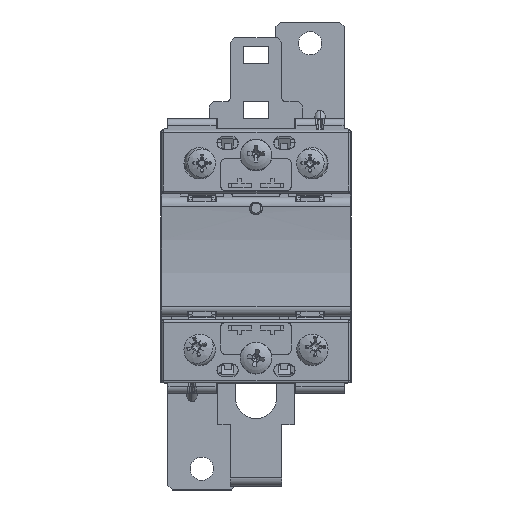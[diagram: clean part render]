
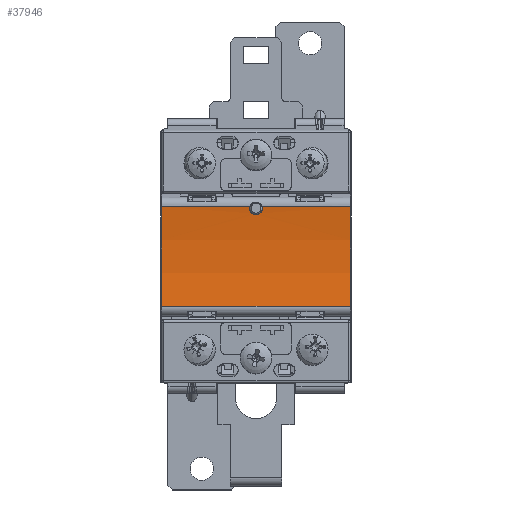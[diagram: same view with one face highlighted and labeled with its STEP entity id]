
A CAD part, top view. The second image highlights one B-rep face of the part: STEP entity #37946.
In plain terms, the highlighted cylindrical face has radius 80 mm (diameter 160 mm), a partial arc.
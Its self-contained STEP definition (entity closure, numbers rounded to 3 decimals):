
#1017=B_SPLINE_CURVE_WITH_KNOTS('',3,(#63859,#63860,#63861,#63862),
 .UNSPECIFIED.,.F.,.F.,(4,4),(-0.265,-0.227),
 .UNSPECIFIED.);
#1019=B_SPLINE_CURVE_WITH_KNOTS('',3,(#63882,#63883,#63884,#63885,#63886,
#63887,#63888,#63889,#63890,#63891,#63892,#63893,#63894,#63895,#63896,#63897,
#63898,#63899,#63900,#63901,#63902),.UNSPECIFIED.,.F.,.F.,(4,2,2,2,3,2,
2,2,2,4),(-0.227,-0.17,-0.113,-0.056,
0.,0.056,0.113,0.17,0.227,
0.265),.UNSPECIFIED.);
#3514=FACE_OUTER_BOUND('',#5520,.T.);
#5520=EDGE_LOOP('',(#31209,#31210,#31211,#31212,#31213,#31214,#31215));
#6548=ELLIPSE('',#40877,80.012,80.);
#6551=ELLIPSE('',#40882,80.012,80.);
#9964=LINE('',#63675,#13484);
#10018=LINE('',#63904,#13538);
#10019=LINE('',#63905,#13539);
#13484=VECTOR('',#48756,10.);
#13538=VECTOR('',#48878,10.);
#13539=VECTOR('',#48879,10.);
#17065=VERTEX_POINT('',#63204);
#17066=VERTEX_POINT('',#63206);
#17074=VERTEX_POINT('',#63226);
#17075=VERTEX_POINT('',#63228);
#17248=VERTEX_POINT('',#63856);
#17249=VERTEX_POINT('',#63858);
#17250=VERTEX_POINT('',#63863);
#21868=EDGE_CURVE('',#17065,#17066,#6548,.T.);
#21879=EDGE_CURVE('',#17074,#17075,#6551,.T.);
#22109=EDGE_CURVE('',#17066,#17074,#9964,.T.);
#22175=EDGE_CURVE('',#17249,#17248,#1017,.T.);
#22177=EDGE_CURVE('',#17248,#17250,#1019,.T.);
#22178=EDGE_CURVE('',#17075,#17250,#10018,.T.);
#22179=EDGE_CURVE('',#17249,#17065,#10019,.T.);
#31209=ORIENTED_EDGE('',*,*,#22109,.F.);
#31210=ORIENTED_EDGE('',*,*,#21868,.F.);
#31211=ORIENTED_EDGE('',*,*,#22179,.F.);
#31212=ORIENTED_EDGE('',*,*,#22175,.T.);
#31213=ORIENTED_EDGE('',*,*,#22177,.T.);
#31214=ORIENTED_EDGE('',*,*,#22178,.F.);
#31215=ORIENTED_EDGE('',*,*,#21879,.F.);
#35357=CYLINDRICAL_SURFACE('',#41003,80.);
#37946=ADVANCED_FACE('',(#3514),#35357,.F.);
#40877=AXIS2_PLACEMENT_3D('',#63207,#48353,#48354);
#40882=AXIS2_PLACEMENT_3D('',#63229,#48371,#48372);
#41003=AXIS2_PLACEMENT_3D('',#63923,#48893,#48894);
#48353=DIRECTION('center_axis',(-1.,0.,
-0.017));
#48354=DIRECTION('ref_axis',(0.017,0.,-1.));
#48371=DIRECTION('center_axis',(1.,0.,
-0.017));
#48372=DIRECTION('ref_axis',(-0.017,0.,
-1.));
#48756=DIRECTION('',(-1.,0.,0.));
#48878=DIRECTION('',(1.,0.,0.));
#48879=DIRECTION('',(1.,0.,0.));
#48893=DIRECTION('center_axis',(1.,0.,0.));
#48894=DIRECTION('ref_axis',(0.,0.174,-0.985));
#63204=CARTESIAN_POINT('',(22.145,11.688,28.634));
#63206=CARTESIAN_POINT('',(22.145,-11.704,28.634));
#63207=CARTESIAN_POINT('Origin',(20.763,-0.008,
107.775));
#63226=CARTESIAN_POINT('',(-22.145,-11.704,28.634));
#63228=CARTESIAN_POINT('',(-22.145,11.688,28.634));
#63229=CARTESIAN_POINT('Origin',(-20.763,-0.008,
107.775));
#63675=CARTESIAN_POINT('',(0.,-11.704,28.634));
#63856=CARTESIAN_POINT('',(1.5,11.3,28.578));
#63858=CARTESIAN_POINT('',(1.449,11.688,28.634));
#63859=CARTESIAN_POINT('Ctrl Pts',(1.449,11.688,28.634));
#63860=CARTESIAN_POINT('Ctrl Pts',(1.484,11.559,28.615));
#63861=CARTESIAN_POINT('Ctrl Pts',(1.5,11.427,28.596));
#63862=CARTESIAN_POINT('Ctrl Pts',(1.5,11.3,28.578));
#63863=CARTESIAN_POINT('',(-1.449,11.688,28.634));
#63882=CARTESIAN_POINT('Ctrl Pts',(1.5,11.3,28.578));
#63883=CARTESIAN_POINT('Ctrl Pts',(1.5,11.112,28.551));
#63884=CARTESIAN_POINT('Ctrl Pts',(1.462,10.911,28.523));
#63885=CARTESIAN_POINT('Ctrl Pts',(1.309,10.54,28.473));
#63886=CARTESIAN_POINT('Ctrl Pts',(1.193,10.371,28.451));
#63887=CARTESIAN_POINT('Ctrl Pts',(0.926,10.105,28.416));
#63888=CARTESIAN_POINT('Ctrl Pts',(0.758,9.99,28.402));
#63889=CARTESIAN_POINT('Ctrl Pts',(0.389,9.838,28.383));
#63890=CARTESIAN_POINT('Ctrl Pts',(0.188,9.8,28.378));
#63891=CARTESIAN_POINT('Ctrl Pts',(0.,9.8,28.378));
#63892=CARTESIAN_POINT('Ctrl Pts',(-0.188,9.8,28.378));
#63893=CARTESIAN_POINT('Ctrl Pts',(-0.389,9.838,
28.383));
#63894=CARTESIAN_POINT('Ctrl Pts',(-0.758,9.99,
28.402));
#63895=CARTESIAN_POINT('Ctrl Pts',(-0.926,10.105,
28.416));
#63896=CARTESIAN_POINT('Ctrl Pts',(-1.193,10.371,28.451));
#63897=CARTESIAN_POINT('Ctrl Pts',(-1.309,10.54,28.473));
#63898=CARTESIAN_POINT('Ctrl Pts',(-1.462,10.911,28.523));
#63899=CARTESIAN_POINT('Ctrl Pts',(-1.5,11.112,28.551));
#63900=CARTESIAN_POINT('Ctrl Pts',(-1.5,11.427,28.596));
#63901=CARTESIAN_POINT('Ctrl Pts',(-1.484,11.559,28.615));
#63902=CARTESIAN_POINT('Ctrl Pts',(-1.449,11.688,28.634));
#63904=CARTESIAN_POINT('',(0.,11.688,28.634));
#63905=CARTESIAN_POINT('',(0.,11.688,28.634));
#63923=CARTESIAN_POINT('Origin',(0.,-0.008,
107.775));
